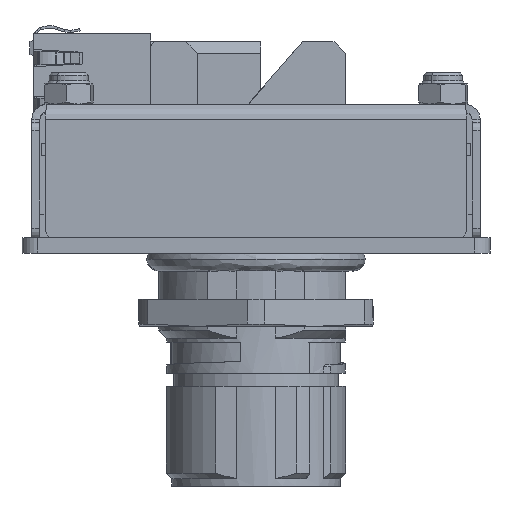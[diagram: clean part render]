
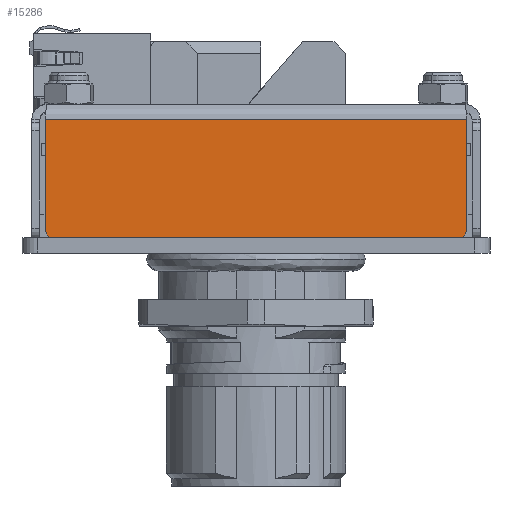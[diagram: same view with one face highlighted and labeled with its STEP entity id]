
A CAD part, left-side view. The second image highlights one B-rep face of the part: STEP entity #15286.
In plain terms, the highlighted planar face has unit normal (-1, 0, 0).
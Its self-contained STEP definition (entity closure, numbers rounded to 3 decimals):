
#15007=CARTESIAN_POINT('',(-56.25,-27.043,4.6));
#15008=VERTEX_POINT('',#15007);
#15085=CARTESIAN_POINT('',(-56.25,27.043,4.6));
#15086=VERTEX_POINT('',#15085);
#15115=CARTESIAN_POINT('',(-56.25,27.043,4.6));
#15116=DIRECTION('',(0.0,-1.0,0.0));
#15117=VECTOR('',#15116,54.086);
#15118=LINE('',#15115,#15117);
#15119=EDGE_CURVE('',#15086,#15008,#15118,.T.);
#15219=CARTESIAN_POINT('',(-56.25,-27.043,-9.3));
#15220=VERTEX_POINT('',#15219);
#15221=CARTESIAN_POINT('',(-56.25,-27.043,4.6));
#15222=DIRECTION('',(0.0,0.0,-1.0));
#15223=VECTOR('',#15222,13.9);
#15224=LINE('',#15221,#15223);
#15225=EDGE_CURVE('',#15008,#15220,#15224,.T.);
#15245=CARTESIAN_POINT('',(-56.25,29.747,-11.57));
#15246=DIRECTION('',(1.0,0.0,0.0));
#15247=DIRECTION('',(0.0,0.0,1.0));
#15248=AXIS2_PLACEMENT_3D('',#15245,#15246,#15247);
#15249=PLANE('',#15248);
#15250=CARTESIAN_POINT('',(-56.25,27.043,-9.3));
#15251=VERTEX_POINT('',#15250);
#15252=CARTESIAN_POINT('',(-56.25,27.043,4.6));
#15253=DIRECTION('',(0.0,0.0,-1.0));
#15254=VECTOR('',#15253,13.9);
#15255=LINE('',#15252,#15254);
#15256=EDGE_CURVE('',#15086,#15251,#15255,.T.);
#15257=ORIENTED_EDGE('',*,*,#15256,.T.);
#15258=CARTESIAN_POINT('',(-56.25,25.543,-10.8));
#15259=VERTEX_POINT('',#15258);
#15260=CARTESIAN_POINT('',(-56.25,25.543,-9.3));
#15261=DIRECTION('',(-1.0,0.0,0.0));
#15262=DIRECTION('',(0.0,0.0,1.0));
#15263=AXIS2_PLACEMENT_3D('',#15260,#15261,#15262);
#15264=CIRCLE('',#15263,1.5);
#15265=EDGE_CURVE('',#15251,#15259,#15264,.T.);
#15266=ORIENTED_EDGE('',*,*,#15265,.T.);
#15267=CARTESIAN_POINT('',(-56.25,-25.543,-10.8));
#15268=VERTEX_POINT('',#15267);
#15269=CARTESIAN_POINT('',(-56.25,-25.543,-10.8));
#15270=DIRECTION('',(0.0,1.0,0.0));
#15271=VECTOR('',#15270,51.086);
#15272=LINE('',#15269,#15271);
#15273=EDGE_CURVE('',#15268,#15259,#15272,.T.);
#15274=ORIENTED_EDGE('',*,*,#15273,.F.);
#15275=CARTESIAN_POINT('',(-56.25,-25.543,-9.3));
#15276=DIRECTION('',(-1.0,0.0,0.0));
#15277=DIRECTION('',(0.0,0.0,1.0));
#15278=AXIS2_PLACEMENT_3D('',#15275,#15276,#15277);
#15279=CIRCLE('',#15278,1.5);
#15280=EDGE_CURVE('',#15268,#15220,#15279,.T.);
#15281=ORIENTED_EDGE('',*,*,#15280,.T.);
#15282=ORIENTED_EDGE('',*,*,#15225,.F.);
#15283=ORIENTED_EDGE('',*,*,#15119,.F.);
#15284=EDGE_LOOP('',(#15257,#15266,#15274,#15281,#15282,#15283));
#15285=FACE_OUTER_BOUND('',#15284,.T.);
#15286=ADVANCED_FACE('',(#15285),#15249,.F.);
